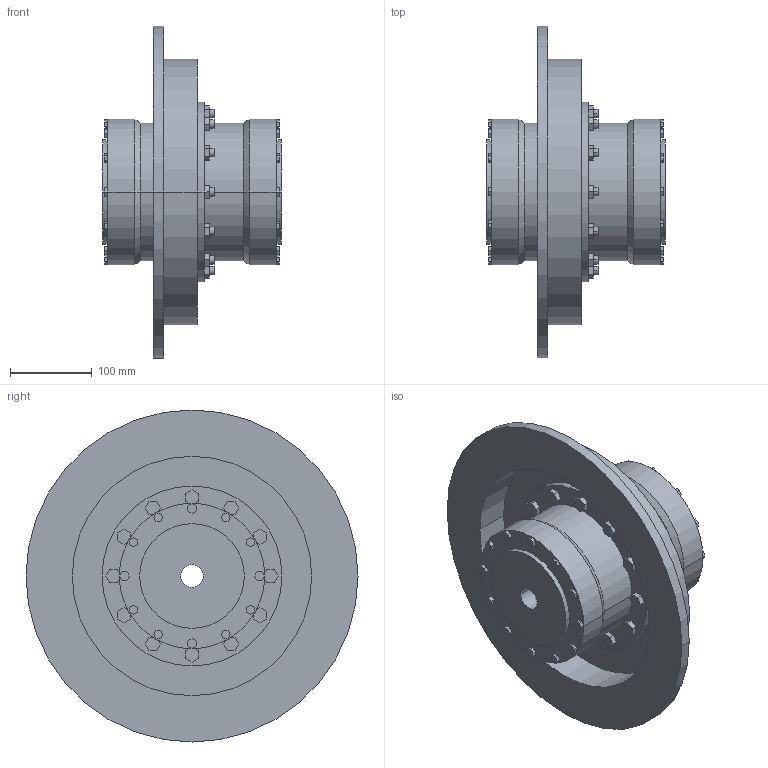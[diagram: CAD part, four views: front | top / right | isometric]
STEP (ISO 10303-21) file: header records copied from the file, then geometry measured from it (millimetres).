
FILE_DESCRIPTION((''),'2;1');
FILE_NAME('A19101100-0_ASM','2019-05-23T',('AB_Roschiwal'),('RENK AG'),'PRO/ENGINEER BY PARAMETRIC TECHNOLOGY CORPORATION, 2015440','PRO/ENGINEER BY PARAMETRIC TECHNOLOGY CORPORATION, 2015440','');
FILE_SCHEMA(('CONFIG_CONTROL_DESIGN'));
Length unit declared in the file: millimetre
Products named in the file (4): SBKT80_GEHAEUSE; SBKT80_NABE; SBKT80_BREMSSCHEIBE; A19101100-0_ASM
Assembly tree (4 placements, depth 2):
  A19101100-0_ASM
    SBKT80_GEHAEUSE
    SBKT80_NABE  x2
    SBKT80_BREMSSCHEIBE
Bounding box: 218 x 406 x 406 mm (x, y, z)
Volume: 6159277.1 mm3; surface area: 815375.2 mm2
Topology: 4 solids, 4 shells, 470 faces, 1156 edges, 768 vertices
Faces by surface type: plane 370, cylinder 96, cone 4
Entity records: 13604 total; most frequent: CARTESIAN_POINT 2350, ORIENTED_EDGE 2264, DIRECTION 2240, EDGE_CURVE 1132, VECTOR 956, LINE 956, VERTEX_POINT 752, AXIS2_PLACEMENT_3D 642
